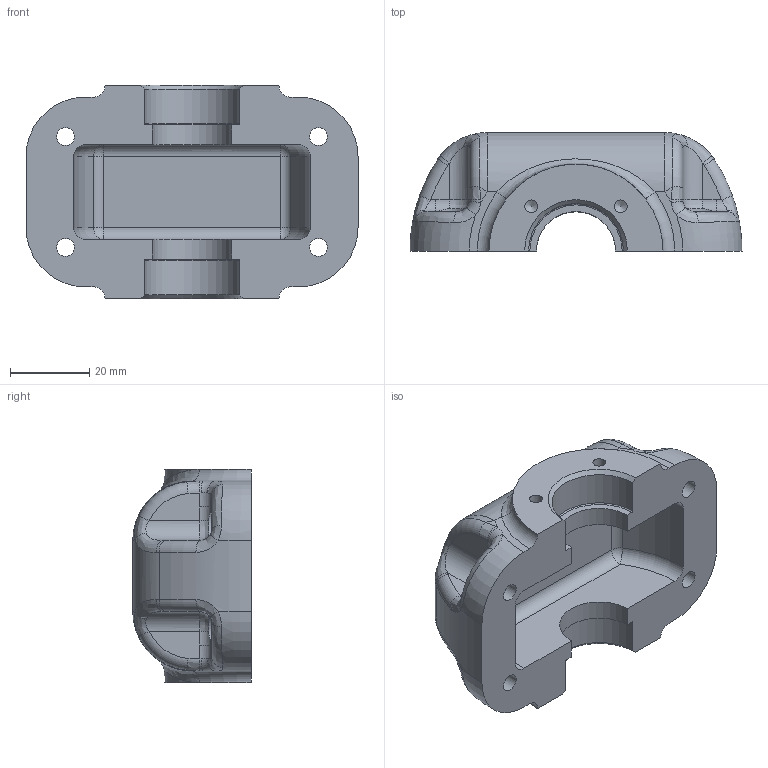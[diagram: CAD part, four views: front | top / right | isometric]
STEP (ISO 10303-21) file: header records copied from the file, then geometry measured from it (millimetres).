
FILE_DESCRIPTION(/* description */ (''),/* implementation_level */ '2;1');
FILE_NAME(/* name */ '',/* time_stamp */ '2024-07-29T13:48:40+09:00',/* author */ ('jhkim'),/* organization */ (''),/* preprocessor_version */ 'ST-DEVELOPER v20',/* originating_system */ 'Autodesk Inventor 2025',/* authorisation */ '');
FILE_SCHEMA (('AUTOMOTIVE_DESIGN { 1 0 10303 214 3 1 1 }'));
Length unit declared in the file: millimetre
Products named in the file (1): 윗커버
Bounding box: 84 x 30 x 54 mm (x, y, z)
Volume: 64341.7 mm3; surface area: 16732.4 mm2
Topology: 1 solids, 1 shells, 166 faces, 392 edges, 228 vertices
Faces by surface type: cylinder 50, bspline 38, torus 34, plane 30, sphere 8, cone 6
Full cylindrical faces by diameter (mm): 3.242 x4, 4.5 x4, 8 x4
Entity records: 5725 total; most frequent: CARTESIAN_POINT 1989, DIRECTION 784, ORIENTED_EDGE 776, EDGE_CURVE 388, AXIS2_PLACEMENT_3D 343, VERTEX_POINT 228, CIRCLE 214, EDGE_LOOP 178
